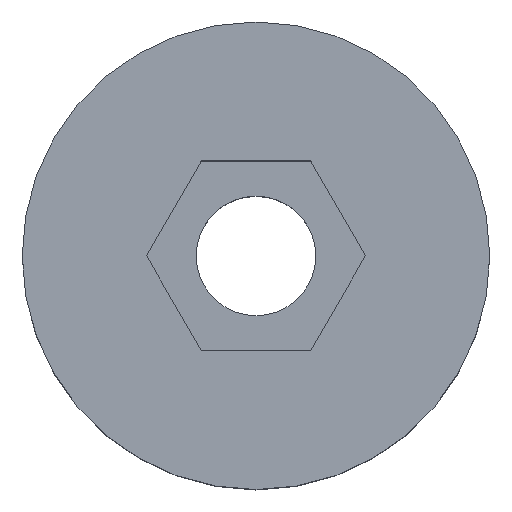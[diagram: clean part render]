
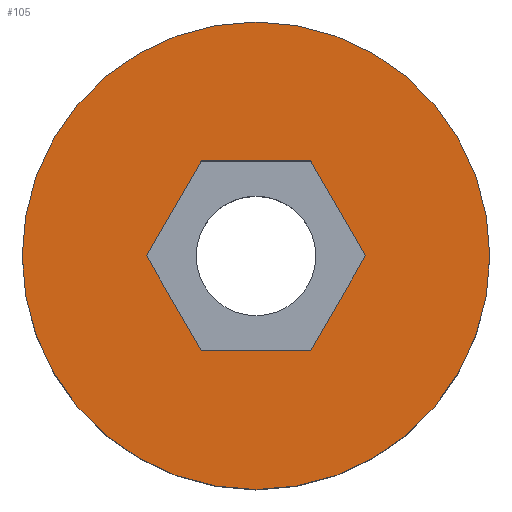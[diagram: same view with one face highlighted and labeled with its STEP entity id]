
A CAD part, top view. The second image highlights one B-rep face of the part: STEP entity #105.
In plain terms, the highlighted planar face has unit normal (0, 0, 1).
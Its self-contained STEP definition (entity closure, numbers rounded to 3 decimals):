
#21 = EDGE_CURVE('',#22,#22,#24,.T.);
#22 = VERTEX_POINT('',#23);
#23 = CARTESIAN_POINT('',(0.,-9.,9.));
#24 = SURFACE_CURVE('',#25,(#30,#42),.PCURVE_S1.);
#25 = CIRCLE('',#26,9.);
#26 = AXIS2_PLACEMENT_3D('',#27,#28,#29);
#27 = CARTESIAN_POINT('',(0.,0.,9.));
#28 = DIRECTION('',(-0.,0.,1.));
#29 = DIRECTION('',(0.,-1.,0.));
#30 = PCURVE('',#31,#36);
#31 = CYLINDRICAL_SURFACE('',#32,9.);
#32 = AXIS2_PLACEMENT_3D('',#33,#34,#35);
#33 = CARTESIAN_POINT('',(0.,0.,0.));
#34 = DIRECTION('',(0.,0.,1.));
#35 = DIRECTION('',(0.,-1.,0.));
#36 = DEFINITIONAL_REPRESENTATION('',(#37),#41);
#37 = LINE('',#38,#39);
#38 = CARTESIAN_POINT('',(0.,9.));
#39 = VECTOR('',#40,1.);
#40 = DIRECTION('',(1.,0.));
#41 = ( GEOMETRIC_REPRESENTATION_CONTEXT(2) 
PARAMETRIC_REPRESENTATION_CONTEXT() REPRESENTATION_CONTEXT('2D SPACE',''
  ) );
#42 = PCURVE('',#43,#48);
#43 = PLANE('',#44);
#44 = AXIS2_PLACEMENT_3D('',#45,#46,#47);
#45 = CARTESIAN_POINT('',(0.,0.,9.));
#46 = DIRECTION('',(0.,0.,1.));
#47 = DIRECTION('',(0.,-1.,0.));
#48 = DEFINITIONAL_REPRESENTATION('',(#49),#53);
#49 = CIRCLE('',#50,9.);
#50 = AXIS2_PLACEMENT_2D('',#51,#52);
#51 = CARTESIAN_POINT('',(0.,0.));
#52 = DIRECTION('',(1.,0.));
#53 = ( GEOMETRIC_REPRESENTATION_CONTEXT(2) 
PARAMETRIC_REPRESENTATION_CONTEXT() REPRESENTATION_CONTEXT('2D SPACE',''
  ) );
#105 = ADVANCED_FACE('',(#106,#109),#43,.T.);
#106 = FACE_BOUND('',#107,.T.);
#107 = EDGE_LOOP('',(#108));
#108 = ORIENTED_EDGE('',*,*,#21,.T.);
#109 = FACE_BOUND('',#110,.T.);
#110 = EDGE_LOOP('',(#111,#141,#169,#197,#225,#253));
#111 = ORIENTED_EDGE('',*,*,#112,.T.);
#112 = EDGE_CURVE('',#113,#115,#117,.T.);
#113 = VERTEX_POINT('',#114);
#114 = CARTESIAN_POINT('',(-2.107,3.65,9.));
#115 = VERTEX_POINT('',#116);
#116 = CARTESIAN_POINT('',(2.107,3.65,9.));
#117 = SURFACE_CURVE('',#118,(#122,#129),.PCURVE_S1.);
#118 = LINE('',#119,#120);
#119 = CARTESIAN_POINT('',(1.054,3.65,9.));
#120 = VECTOR('',#121,1.);
#121 = DIRECTION('',(1.,0.,0.));
#122 = PCURVE('',#43,#123);
#123 = DEFINITIONAL_REPRESENTATION('',(#124),#128);
#124 = LINE('',#125,#126);
#125 = CARTESIAN_POINT('',(-3.65,1.054));
#126 = VECTOR('',#127,1.);
#127 = DIRECTION('',(0.,1.));
#128 = ( GEOMETRIC_REPRESENTATION_CONTEXT(2) 
PARAMETRIC_REPRESENTATION_CONTEXT() REPRESENTATION_CONTEXT('2D SPACE',''
  ) );
#129 = PCURVE('',#130,#135);
#130 = PLANE('',#131);
#131 = AXIS2_PLACEMENT_3D('',#132,#133,#134);
#132 = CARTESIAN_POINT('',(2.107,3.65,5.5));
#133 = DIRECTION('',(0.,-1.,0.));
#134 = DIRECTION('',(-1.,0.,0.));
#135 = DEFINITIONAL_REPRESENTATION('',(#136),#140);
#136 = LINE('',#137,#138);
#137 = CARTESIAN_POINT('',(1.054,-3.5));
#138 = VECTOR('',#139,1.);
#139 = DIRECTION('',(-1.,0.));
#140 = ( GEOMETRIC_REPRESENTATION_CONTEXT(2) 
PARAMETRIC_REPRESENTATION_CONTEXT() REPRESENTATION_CONTEXT('2D SPACE',''
  ) );
#141 = ORIENTED_EDGE('',*,*,#142,.T.);
#142 = EDGE_CURVE('',#115,#143,#145,.T.);
#143 = VERTEX_POINT('',#144);
#144 = CARTESIAN_POINT('',(4.215,0.,9.));
#145 = SURFACE_CURVE('',#146,(#150,#157),.PCURVE_S1.);
#146 = LINE('',#147,#148);
#147 = CARTESIAN_POINT('',(3.688,0.913,9.));
#148 = VECTOR('',#149,1.);
#149 = DIRECTION('',(0.5,-0.866,0.));
#150 = PCURVE('',#43,#151);
#151 = DEFINITIONAL_REPRESENTATION('',(#152),#156);
#152 = LINE('',#153,#154);
#153 = CARTESIAN_POINT('',(-0.913,3.688));
#154 = VECTOR('',#155,1.);
#155 = DIRECTION('',(0.866,0.5));
#156 = ( GEOMETRIC_REPRESENTATION_CONTEXT(2) 
PARAMETRIC_REPRESENTATION_CONTEXT() REPRESENTATION_CONTEXT('2D SPACE',''
  ) );
#157 = PCURVE('',#158,#163);
#158 = PLANE('',#159);
#159 = AXIS2_PLACEMENT_3D('',#160,#161,#162);
#160 = CARTESIAN_POINT('',(4.215,0.,5.5));
#161 = DIRECTION('',(-0.866,-0.5,0.));
#162 = DIRECTION('',(-0.5,0.866,0.));
#163 = DEFINITIONAL_REPRESENTATION('',(#164),#168);
#164 = LINE('',#165,#166);
#165 = CARTESIAN_POINT('',(1.054,-3.5));
#166 = VECTOR('',#167,1.);
#167 = DIRECTION('',(-1.,0.));
#168 = ( GEOMETRIC_REPRESENTATION_CONTEXT(2) 
PARAMETRIC_REPRESENTATION_CONTEXT() REPRESENTATION_CONTEXT('2D SPACE',''
  ) );
#169 = ORIENTED_EDGE('',*,*,#170,.T.);
#170 = EDGE_CURVE('',#143,#171,#173,.T.);
#171 = VERTEX_POINT('',#172);
#172 = CARTESIAN_POINT('',(2.107,-3.65,9.));
#173 = SURFACE_CURVE('',#174,(#178,#185),.PCURVE_S1.);
#174 = LINE('',#175,#176);
#175 = CARTESIAN_POINT('',(2.634,-2.738,9.));
#176 = VECTOR('',#177,1.);
#177 = DIRECTION('',(-0.5,-0.866,0.));
#178 = PCURVE('',#43,#179);
#179 = DEFINITIONAL_REPRESENTATION('',(#180),#184);
#180 = LINE('',#181,#182);
#181 = CARTESIAN_POINT('',(2.738,2.634));
#182 = VECTOR('',#183,1.);
#183 = DIRECTION('',(0.866,-0.5));
#184 = ( GEOMETRIC_REPRESENTATION_CONTEXT(2) 
PARAMETRIC_REPRESENTATION_CONTEXT() REPRESENTATION_CONTEXT('2D SPACE',''
  ) );
#185 = PCURVE('',#186,#191);
#186 = PLANE('',#187);
#187 = AXIS2_PLACEMENT_3D('',#188,#189,#190);
#188 = CARTESIAN_POINT('',(2.107,-3.65,5.5));
#189 = DIRECTION('',(-0.866,0.5,0.));
#190 = DIRECTION('',(0.5,0.866,0.));
#191 = DEFINITIONAL_REPRESENTATION('',(#192),#196);
#192 = LINE('',#193,#194);
#193 = CARTESIAN_POINT('',(1.054,-3.5));
#194 = VECTOR('',#195,1.);
#195 = DIRECTION('',(-1.,0.));
#196 = ( GEOMETRIC_REPRESENTATION_CONTEXT(2) 
PARAMETRIC_REPRESENTATION_CONTEXT() REPRESENTATION_CONTEXT('2D SPACE',''
  ) );
#197 = ORIENTED_EDGE('',*,*,#198,.T.);
#198 = EDGE_CURVE('',#171,#199,#201,.T.);
#199 = VERTEX_POINT('',#200);
#200 = CARTESIAN_POINT('',(-2.107,-3.65,9.));
#201 = SURFACE_CURVE('',#202,(#206,#213),.PCURVE_S1.);
#202 = LINE('',#203,#204);
#203 = CARTESIAN_POINT('',(-1.054,-3.65,9.));
#204 = VECTOR('',#205,1.);
#205 = DIRECTION('',(-1.,0.,0.));
#206 = PCURVE('',#43,#207);
#207 = DEFINITIONAL_REPRESENTATION('',(#208),#212);
#208 = LINE('',#209,#210);
#209 = CARTESIAN_POINT('',(3.65,-1.054));
#210 = VECTOR('',#211,1.);
#211 = DIRECTION('',(0.,-1.));
#212 = ( GEOMETRIC_REPRESENTATION_CONTEXT(2) 
PARAMETRIC_REPRESENTATION_CONTEXT() REPRESENTATION_CONTEXT('2D SPACE',''
  ) );
#213 = PCURVE('',#214,#219);
#214 = PLANE('',#215);
#215 = AXIS2_PLACEMENT_3D('',#216,#217,#218);
#216 = CARTESIAN_POINT('',(-2.107,-3.65,5.5));
#217 = DIRECTION('',(0.,1.,0.));
#218 = DIRECTION('',(1.,0.,0.));
#219 = DEFINITIONAL_REPRESENTATION('',(#220),#224);
#220 = LINE('',#221,#222);
#221 = CARTESIAN_POINT('',(1.054,-3.5));
#222 = VECTOR('',#223,1.);
#223 = DIRECTION('',(-1.,0.));
#224 = ( GEOMETRIC_REPRESENTATION_CONTEXT(2) 
PARAMETRIC_REPRESENTATION_CONTEXT() REPRESENTATION_CONTEXT('2D SPACE',''
  ) );
#225 = ORIENTED_EDGE('',*,*,#226,.T.);
#226 = EDGE_CURVE('',#199,#227,#229,.T.);
#227 = VERTEX_POINT('',#228);
#228 = CARTESIAN_POINT('',(-4.215,0.,9.));
#229 = SURFACE_CURVE('',#230,(#234,#241),.PCURVE_S1.);
#230 = LINE('',#231,#232);
#231 = CARTESIAN_POINT('',(-3.688,-0.913,9.));
#232 = VECTOR('',#233,1.);
#233 = DIRECTION('',(-0.5,0.866,0.));
#234 = PCURVE('',#43,#235);
#235 = DEFINITIONAL_REPRESENTATION('',(#236),#240);
#236 = LINE('',#237,#238);
#237 = CARTESIAN_POINT('',(0.913,-3.688));
#238 = VECTOR('',#239,1.);
#239 = DIRECTION('',(-0.866,-0.5));
#240 = ( GEOMETRIC_REPRESENTATION_CONTEXT(2) 
PARAMETRIC_REPRESENTATION_CONTEXT() REPRESENTATION_CONTEXT('2D SPACE',''
  ) );
#241 = PCURVE('',#242,#247);
#242 = PLANE('',#243);
#243 = AXIS2_PLACEMENT_3D('',#244,#245,#246);
#244 = CARTESIAN_POINT('',(-4.215,0.,5.5));
#245 = DIRECTION('',(0.866,0.5,0.));
#246 = DIRECTION('',(0.5,-0.866,0.));
#247 = DEFINITIONAL_REPRESENTATION('',(#248),#252);
#248 = LINE('',#249,#250);
#249 = CARTESIAN_POINT('',(1.054,-3.5));
#250 = VECTOR('',#251,1.);
#251 = DIRECTION('',(-1.,0.));
#252 = ( GEOMETRIC_REPRESENTATION_CONTEXT(2) 
PARAMETRIC_REPRESENTATION_CONTEXT() REPRESENTATION_CONTEXT('2D SPACE',''
  ) );
#253 = ORIENTED_EDGE('',*,*,#254,.T.);
#254 = EDGE_CURVE('',#227,#113,#255,.T.);
#255 = SURFACE_CURVE('',#256,(#260,#267),.PCURVE_S1.);
#256 = LINE('',#257,#258);
#257 = CARTESIAN_POINT('',(-2.634,2.738,9.));
#258 = VECTOR('',#259,1.);
#259 = DIRECTION('',(0.5,0.866,0.));
#260 = PCURVE('',#43,#261);
#261 = DEFINITIONAL_REPRESENTATION('',(#262),#266);
#262 = LINE('',#263,#264);
#263 = CARTESIAN_POINT('',(-2.738,-2.634));
#264 = VECTOR('',#265,1.);
#265 = DIRECTION('',(-0.866,0.5));
#266 = ( GEOMETRIC_REPRESENTATION_CONTEXT(2) 
PARAMETRIC_REPRESENTATION_CONTEXT() REPRESENTATION_CONTEXT('2D SPACE',''
  ) );
#267 = PCURVE('',#268,#273);
#268 = PLANE('',#269);
#269 = AXIS2_PLACEMENT_3D('',#270,#271,#272);
#270 = CARTESIAN_POINT('',(-2.107,3.65,5.5));
#271 = DIRECTION('',(0.866,-0.5,0.));
#272 = DIRECTION('',(-0.5,-0.866,0.));
#273 = DEFINITIONAL_REPRESENTATION('',(#274),#278);
#274 = LINE('',#275,#276);
#275 = CARTESIAN_POINT('',(1.054,-3.5));
#276 = VECTOR('',#277,1.);
#277 = DIRECTION('',(-1.,0.));
#278 = ( GEOMETRIC_REPRESENTATION_CONTEXT(2) 
PARAMETRIC_REPRESENTATION_CONTEXT() REPRESENTATION_CONTEXT('2D SPACE',''
  ) );
